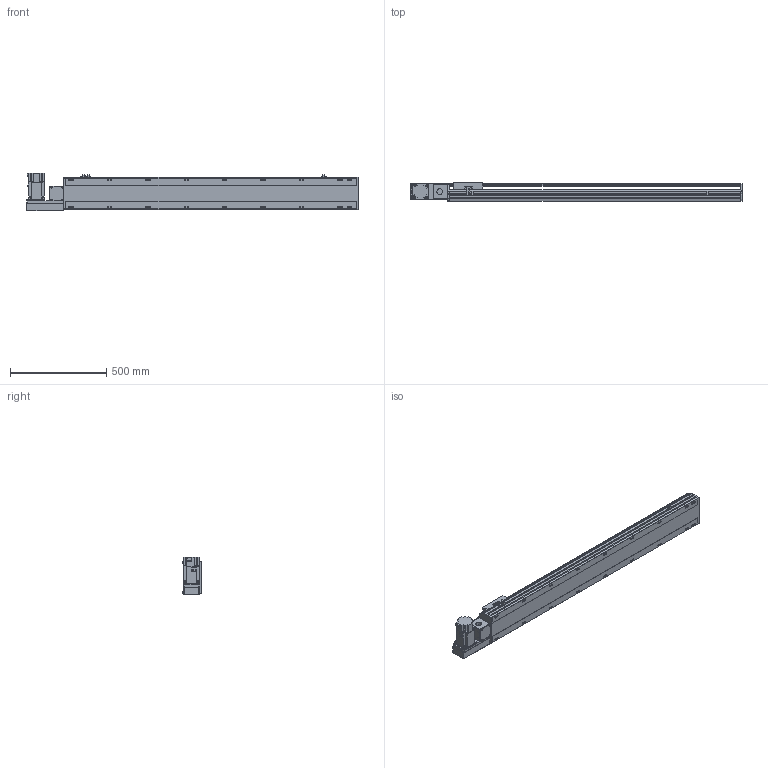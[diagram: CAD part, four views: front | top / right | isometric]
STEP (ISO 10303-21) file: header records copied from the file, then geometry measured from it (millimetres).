
FILE_DESCRIPTION( ( 'STEP AP214' ), '1' );
FILE_NAME( 'x:/temp/worker_3/temp/exporttempdir_5796_105_y3gCc/format_0/PBS170-P40-S1250-L-T75-C1-N(0).stp', '2022-06-07T06:55:34', ( 'License CC BY-ND 4.0' ), ( 'CADENAS' ), ' ', 'PARTsolutions', ' ' );
FILE_SCHEMA( ( 'AUTOMOTIVE_DESIGN { 1 0 10303 214 1 1 1 1 }' ) );
Length unit declared in the file: millimetre
Products named in the file (7): PBS170-P40-S1250-L-T75-C1-N(0); _PBS170-S1250()_body; _PBS170T-L_motors; _T75-p1; _PBS170_sliser; _PBS170_plant; _PBS170_sensor
Assembly tree (8 placements, depth 2):
  PBS170-P40-S1250-L-T75-C1-N(0)
    _PBS170-S1250()_body
    _PBS170T-L_motors
    _T75-p1
    _PBS170_sliser
    _PBS170_plant
    _PBS170_sensor  x3
Bounding box: 1728 x 97 x 197.3 mm (x, y, z)
Volume: 12769007.5 mm3; surface area: 1656160.5 mm2
Topology: 8 solids, 8 shells, 1098 faces, 2915 edges, 1900 vertices
Faces by surface type: plane 693, cylinder 347, cone 48, sphere 8, torus 2
Full cylindrical faces by diameter (mm): 3.242 x4, 4 x2, 4.4 x4, 4.5 x6, 4.917 x4, 6 x9, 6.647 x26, 7 x2, 7.5 x4, 8 x8, 8.5 x18, 10 x4, 10.5 x18, 11 x2, 30 x2, 40 x1, 70 x1
Entity records: 40382 total; most frequent: CARTESIAN_POINT 6389, DIRECTION 5370, ORIENTED_EDGE 5088, EDGE_CURVE 2544, AXIS2_PLACEMENT_3D 1867, VERTEX_POINT 1754, LINE 1636, VECTOR 1636
